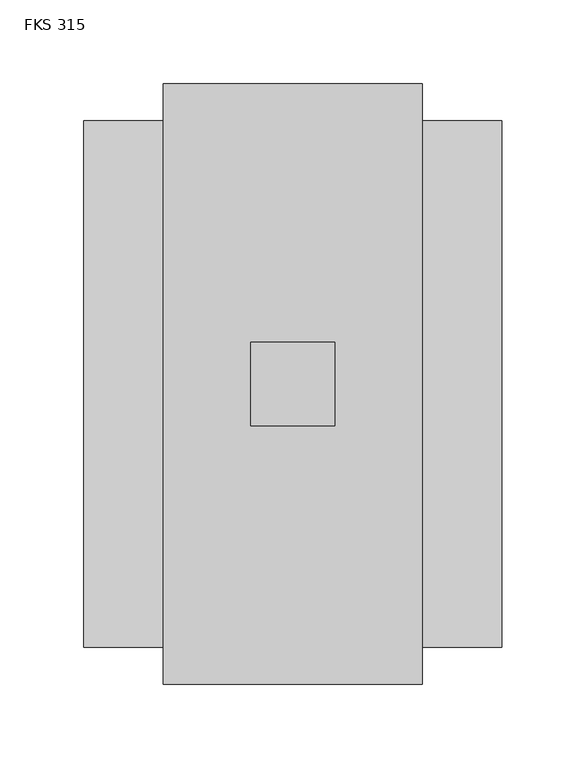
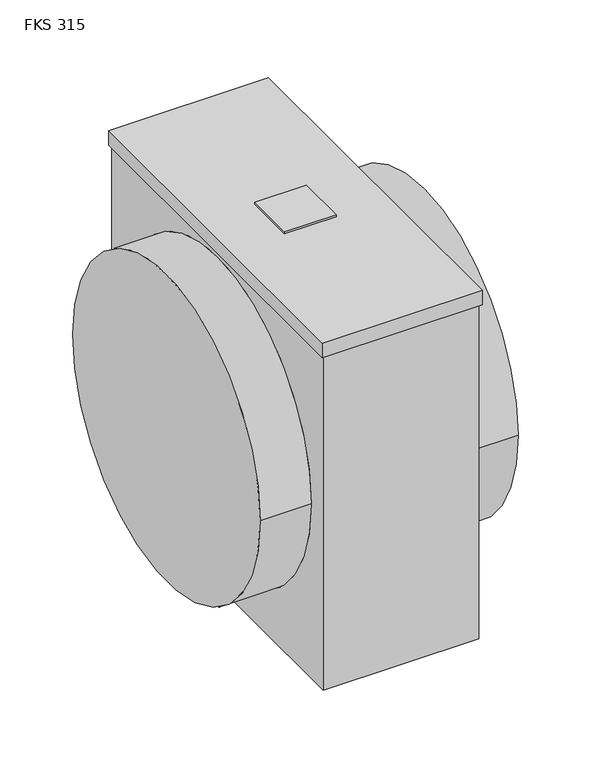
"""IFC4 building model written with IfcOpenShell, lengths in millimetres: damper geometry, KORF_Фильтр_Кассетный_Круглый_FKS : FKS 315."""

from ifc_helpers import new_model, si_unit, frame, origin, place, context, project, spatial, polyline, circle_curve, outline, extrude, source, transform, mapped, element, save
from ifc_brep_helpers import plane_surface, cylinder_surface, advanced_brep


def fks_315_ea77e572(model_context):
    return source(origin(), model_context, "Body", "SolidModel", [
        extrude(outline(polyline([(150.0, 25.0), (150.0, -25.0), (100.0, -25.0), (100.0, 25.0), (150.0, 25.0)])), frame((0.0, 0.0, 179.0), z_axis=(0.0, 0.0, 1.0), x_axis=(1.0, 0.0, 0.0)), (0.0, 0.0, 1.0), 2.0),
        advanced_brep(
        [(250.0, -157.5, 0.0), (250.0, 157.5, 0.0), (0.0, -157.5, 0.0), (0.0, 157.5, 0.0), (200.5, -157.5, 0.0), (200.5, 157.5, 0.0), (49.5, 157.5, 0.0), (49.5, -157.5, 0.0), (200.5, -177.5, -179.0), (200.5, 177.5, -179.0), (200.5, 177.5, 164.0), (200.5, -177.5, 164.0), (49.5, 177.5, -179.0), (49.5, -177.5, -179.0), (49.5, -177.5, 164.0), (49.5, 177.5, 164.0), (202.5, 179.5, 179.0), (47.5, 179.5, 179.0), (47.5, -179.5, 179.0), (202.5, -179.5, 179.0), (202.5, 179.5, 164.0), (202.5, -179.5, 164.0), (47.5, -179.5, 164.0), (47.5, 179.5, 164.0)],
        [
            (0, 1, circle_curve(frame((250.0, 0.0, 0.0), z_axis=(1.0, 0.0, 0.0), x_axis=(0.0, 1.0, 0.0)), 157.5)),
            (1, 0, circle_curve(frame((250.0, 0.0, 0.0), z_axis=(1.0, 0.0, 0.0), x_axis=(0.0, 1.0, 0.0)), 157.5)),
            (2, 3, circle_curve(frame((0.0, 0.0, 0.0), z_axis=(-1.0, 0.0, 0.0), x_axis=(0.0, 1.0, 0.0)), 157.5)),
            (3, 2, circle_curve(frame((0.0, 0.0, 0.0), z_axis=(-1.0, 0.0, 0.0), x_axis=(0.0, 1.0, 0.0)), 157.5)),
            (0, 4),
            (4, 5, circle_curve(frame((200.5, 0.0, 0.0), z_axis=(1.0, 0.0, 0.0), x_axis=(0.0, 1.0, 0.0)), 157.5)),
            (5, 1),
            (3, 6),
            (6, 7, circle_curve(frame((49.5, 0.0, 0.0), z_axis=(-1.0, 0.0, 0.0), x_axis=(0.0, 1.0, 0.0)), 157.5)),
            (7, 2),
            (5, 4, circle_curve(frame((200.5, 0.0, 0.0), z_axis=(1.0, 0.0, 0.0), x_axis=(0.0, 1.0, 0.0)), 157.5)),
            (7, 6, circle_curve(frame((49.5, 0.0, 0.0), z_axis=(-1.0, 0.0, 0.0), x_axis=(0.0, 1.0, 0.0)), 157.5)),
            (8, 9),
            (9, 10),
            (10, 11),
            (11, 8),
            (12, 13),
            (13, 14),
            (14, 15),
            (15, 12),
            (13, 8),
            (11, 14),
            (12, 9),
            (15, 10),
            (16, 17),
            (17, 18),
            (18, 19),
            (19, 16),
            (20, 21),
            (21, 22),
            (22, 23),
            (23, 20),
            (16, 20),
            (23, 17),
            (22, 18),
            (21, 19),
        ],
        [
            plane_surface(frame((250.0, 157.5, 0.0), z_axis=(1.0, 0.0, 0.0), x_axis=(0.0, 0.0, 1.0))),
            plane_surface(frame((0.0, 157.5, 0.0), z_axis=(-1.0, 0.0, 0.0), x_axis=(0.0, 0.0, -1.0))),
            cylinder_surface(frame((0.0, 0.0, 0.0), z_axis=(1.0, 0.0, 0.0), x_axis=(0.0, 1.0, 0.0)), 157.5),
            plane_surface(frame((200.5, -177.5, 179.0), z_axis=(1.0, 0.0, 0.0), x_axis=(0.0, 0.0, -1.0))),
            plane_surface(frame((49.5, -177.5, 179.0), z_axis=(-1.0, 0.0, 0.0), x_axis=(0.0, 0.0, 1.0))),
            plane_surface(frame((200.5, -177.5, 179.0), z_axis=(0.0, -1.0, 0.0), x_axis=(-1.0, 0.0, 0.0))),
            plane_surface(frame((200.5, -177.5, -179.0), z_axis=(0.0, 0.0, -1.0), x_axis=(-1.0, 0.0, 0.0))),
            plane_surface(frame((200.5, 177.5, -179.0), z_axis=(0.0, 1.0, 0.0), x_axis=(-1.0, 0.0, 0.0))),
            plane_surface(frame((200.5, 177.5, 179.0), z_axis=(0.0, 0.0, 1.0), x_axis=(-1.0, 0.0, 0.0))),
            plane_surface(frame((47.5, 179.5, 164.0), z_axis=(0.0, 0.0, -1.0), x_axis=(1.0, 0.0, 0.0))),
            plane_surface(frame((202.5, 179.5, 179.0), z_axis=(0.0, 1.0, 0.0), x_axis=(0.0, 0.0, -1.0))),
            plane_surface(frame((47.5, 179.5, 179.0), z_axis=(-1.0, 0.0, 0.0), x_axis=(0.0, 0.0, -1.0))),
            plane_surface(frame((47.5, -179.5, 179.0), z_axis=(0.0, -1.0, 0.0), x_axis=(0.0, 0.0, -1.0))),
            plane_surface(frame((202.5, -179.5, 179.0), z_axis=(1.0, 0.0, 0.0), x_axis=(0.0, 0.0, -1.0))),
        ],
        [
            (0, [[1, 2]]),
            (1, [[3, 4]]),
            (2, [[-1, 5, 6, 7]]),
            (2, [[-4, 8, 9, 10]]),
            (2, [[-2, -7, 11, -5]]),
            (2, [[-3, -10, 12, -8]]),
            (3, [[13, 14, 15, 16], [-6, -11]]),
            (4, [[17, 18, 19, 20], [-9, -12]]),
            (5, [[21, -16, 22, -18]]),
            (6, [[-13, -21, -17, 23]]),
            (7, [[-23, -20, 24, -14]]),
            (8, [[25, 26, 27, 28]]),
            (9, [[29, 30, 31, 32], [-15, -24, -19, -22]]),
            (10, [[-25, 33, -32, 34]]),
            (11, [[-26, -34, -31, 35]]),
            (12, [[-27, -35, -30, 36]]),
            (13, [[-28, -36, -29, -33]]),
        ],
    ),
    ])


if __name__ == "__main__":
    model = new_model("IFC4")
    model_context = context("Model", 3, world=origin())
    ifc_project = project(units=[si_unit("LENGTHUNIT", "METRE", prefix="MILLI")], contexts=[model_context])
    site = spatial("IfcSite", under=ifc_project)
    building = spatial("IfcBuilding", under=site)
    placement = place(None, origin())
    fks_315_shape = fks_315_ea77e572(model_context)
    element("IfcDamper", 1, ObjectType="KORF_Фильтр_Кассетный_Круглый_FKS : FKS 315", at=placement, inside=building, context=model_context, shape_type="MappedRepresentation", body=[
        mapped(fks_315_shape, transform((0.0, 0.0, 0.0), x_axis=(1.0, 0.0, 0.0), y_axis=(0.0, 1.0, 0.0), z_axis=(0.0, 0.0, 1.0))),
    ])
    save(model, "model.ifc")
